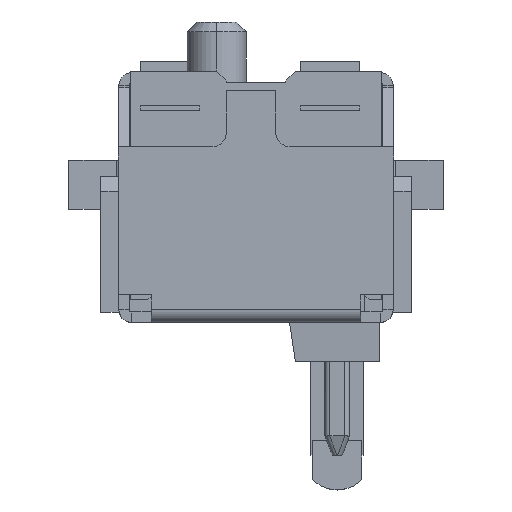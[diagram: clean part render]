
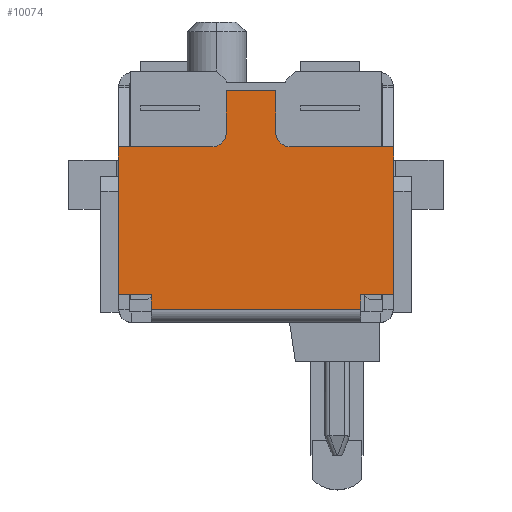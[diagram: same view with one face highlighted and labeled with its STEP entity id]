
A CAD part, top view. The second image highlights one B-rep face of the part: STEP entity #10074.
In plain terms, the highlighted planar face has unit normal (0, 0, 1).
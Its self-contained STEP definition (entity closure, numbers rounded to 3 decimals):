
#6194 = VERTEX_POINT ( 'NONE', #14582 ) ;
#9029 = LINE ( 'NONE', #9285, #9303 ) ;
#9118 = CARTESIAN_POINT ( 'NONE',  ( -2.125, -1.63, 4.3 ) ) ;
#9119 = DIRECTION ( 'NONE',  ( -1., 0., 0. ) ) ;
#9120 = VECTOR ( 'NONE', #9119, 1000. ) ;
#9121 = CARTESIAN_POINT ( 'NONE',  ( 0., -1.63, 4.3 ) ) ;
#9122 = LINE ( 'NONE', #9121, #9120 ) ;
#9123 = CARTESIAN_POINT ( 'NONE',  ( 2.125, -1.63, 4.3 ) ) ;
#9184 = CARTESIAN_POINT ( 'NONE',  ( 2.125, -1.33, 4.3 ) ) ;
#9185 = DIRECTION ( 'NONE',  ( 0., -1., 0. ) ) ;
#9186 = VECTOR ( 'NONE', #9185, 1000. ) ;
#9187 = CARTESIAN_POINT ( 'NONE',  ( 2.125, 0.59, 4.3 ) ) ;
#9188 = LINE ( 'NONE', #9187, #9186 ) ;
#9259 = CARTESIAN_POINT ( 'NONE',  ( 2.8, -1.33, 4.3 ) ) ;
#9276 = DIRECTION ( 'NONE',  ( -1., 0., 0. ) ) ;
#9285 = CARTESIAN_POINT ( 'NONE',  ( 2.463, -1.33, 4.3 ) ) ;
#9303 = VECTOR ( 'NONE', #9276, 1000. ) ;
#9683 = VERTEX_POINT ( 'NONE', #9123 ) ;
#9685 = EDGE_CURVE ( 'NONE', #9683, #9686, #9122, .T. ) ;
#9686 = VERTEX_POINT ( 'NONE', #9118 ) ;
#9753 = EDGE_CURVE ( 'NONE', #9754, #9683, #9188, .T. ) ;
#9754 = VERTEX_POINT ( 'NONE', #9184 ) ;
#9755 = ORIENTED_EDGE ( 'NONE', *, *, #9756, .F. ) ;
#9756 = EDGE_CURVE ( 'NONE', #9757, #9754, #9029, .T. ) ;
#9757 = VERTEX_POINT ( 'NONE', #9259 ) ;
#9841 = ORIENTED_EDGE ( 'NONE', *, *, #9842, .F. ) ;
#9842 = EDGE_CURVE ( 'NONE', #10070, #9757, #13597, .T. ) ;
#9906 = VERTEX_POINT ( 'NONE', #12945 ) ;
#9907 = ORIENTED_EDGE ( 'NONE', *, *, #9908, .F. ) ;
#9908 = EDGE_CURVE ( 'NONE', #9909, #9906, #12944, .T. ) ;
#9909 = VERTEX_POINT ( 'NONE', #12940 ) ;
#9910 = ORIENTED_EDGE ( 'NONE', *, *, #9911, .F. ) ;
#9911 = EDGE_CURVE ( 'NONE', #9914, #9909, #12939, .T. ) ;
#9914 = VERTEX_POINT ( 'NONE', #12931 ) ;
#9931 = ORIENTED_EDGE ( 'NONE', *, *, #9685, .F. ) ;
#9932 = ORIENTED_EDGE ( 'NONE', *, *, #9753, .F. ) ;
#9936 = ORIENTED_EDGE ( 'NONE', *, *, #9937, .F. ) ;
#9937 = EDGE_CURVE ( 'NONE', #9906, #10073, #12818, .T. ) ;
#9940 = EDGE_CURVE ( 'NONE', #9686, #10053, #12872, .T. ) ;
#9946 = VERTEX_POINT ( 'NONE', #12859 ) ;
#9956 = ORIENTED_EDGE ( 'NONE', *, *, #9940, .F. ) ;
#9982 = EDGE_LOOP ( 'NONE', ( #9931, #9932, #9755, #9841, #10071, #9936, #9907, #9910, #9997, #10002, #10004, #9989, #10067, #9956 ) ) ;
#9989 = ORIENTED_EDGE ( 'NONE', *, *, #10058, .F. ) ;
#9997 = ORIENTED_EDGE ( 'NONE', *, *, #10043, .F. ) ;
#9998 = VERTEX_POINT ( 'NONE', #13129 ) ;
#10002 = ORIENTED_EDGE ( 'NONE', *, *, #10003, .F. ) ;
#10003 = EDGE_CURVE ( 'NONE', #9946, #9998, #13123, .T. ) ;
#10004 = ORIENTED_EDGE ( 'NONE', *, *, #10005, .F. ) ;
#10005 = EDGE_CURVE ( 'NONE', #6194, #9946, #13118, .T. ) ;
#10043 = EDGE_CURVE ( 'NONE', #9998, #9914, #13136, .T. ) ;
#10053 = VERTEX_POINT ( 'NONE', #13066 ) ;
#10054 = VERTEX_POINT ( 'NONE', #13065 ) ;
#10057 = EDGE_CURVE ( 'NONE', #10053, #10054, #13289, .T. ) ;
#10058 = EDGE_CURVE ( 'NONE', #10054, #6194, #13417, .T. ) ;
#10067 = ORIENTED_EDGE ( 'NONE', *, *, #10057, .F. ) ;
#10070 = VERTEX_POINT ( 'NONE', #13273 ) ;
#10071 = ORIENTED_EDGE ( 'NONE', *, *, #10072, .F. ) ;
#10072 = EDGE_CURVE ( 'NONE', #10073, #10070, #13475, .T. ) ;
#10073 = VERTEX_POINT ( 'NONE', #13471 ) ;
#10074 = ADVANCED_FACE ( 'NONE', ( #13470 ), #13454, .F. ) ;
#12814 = DIRECTION ( 'NONE',  ( -1., 0., 0. ) ) ;
#12815 = DIRECTION ( 'NONE',  ( 0., 0., 1. ) ) ;
#12816 = CARTESIAN_POINT ( 'NONE',  ( 0.7, 1.97, 4.3 ) ) ;
#12817 = AXIS2_PLACEMENT_3D ( 'NONE', #12816, #12815, #12814 ) ;
#12818 = CIRCLE ( 'NONE', #12817, 0.3 ) ;
#12859 = CARTESIAN_POINT ( 'NONE',  ( -0.9, 1.67, 4.3 ) ) ;
#12869 = DIRECTION ( 'NONE',  ( 0., 1., 0. ) ) ;
#12870 = VECTOR ( 'NONE', #12869, 1000. ) ;
#12871 = CARTESIAN_POINT ( 'NONE',  ( -2.125, 0.59, 4.3 ) ) ;
#12872 = LINE ( 'NONE', #12871, #12870 ) ;
#12931 = CARTESIAN_POINT ( 'NONE',  ( -0.6, 2.81, 4.3 ) ) ;
#12936 = DIRECTION ( 'NONE',  ( 1., 0., 0. ) ) ;
#12937 = VECTOR ( 'NONE', #12936, 1000. ) ;
#12938 = CARTESIAN_POINT ( 'NONE',  ( -0.1, 2.81, 4.3 ) ) ;
#12939 = LINE ( 'NONE', #12938, #12937 ) ;
#12940 = CARTESIAN_POINT ( 'NONE',  ( 0.4, 2.81, 4.3 ) ) ;
#12941 = DIRECTION ( 'NONE',  ( 0., -1., 0. ) ) ;
#12942 = VECTOR ( 'NONE', #12941, 1000. ) ;
#12943 = CARTESIAN_POINT ( 'NONE',  ( 0.4, 2.39, 4.3 ) ) ;
#12944 = LINE ( 'NONE', #12943, #12942 ) ;
#12945 = CARTESIAN_POINT ( 'NONE',  ( 0.4, 1.97, 4.3 ) ) ;
#13065 = CARTESIAN_POINT ( 'NONE',  ( -2.8, -1.33, 4.3 ) ) ;
#13066 = CARTESIAN_POINT ( 'NONE',  ( -2.125, -1.33, 4.3 ) ) ;
#13115 = DIRECTION ( 'NONE',  ( 1., 0., 0. ) ) ;
#13116 = VECTOR ( 'NONE', #13115, 1000. ) ;
#13117 = CARTESIAN_POINT ( 'NONE',  ( -1.85, 1.67, 4.3 ) ) ;
#13118 = LINE ( 'NONE', #13117, #13116 ) ;
#13119 = DIRECTION ( 'NONE',  ( -1., 0., 0. ) ) ;
#13120 = DIRECTION ( 'NONE',  ( 0., 0., 1. ) ) ;
#13121 = CARTESIAN_POINT ( 'NONE',  ( -0.9, 1.97, 4.3 ) ) ;
#13122 = AXIS2_PLACEMENT_3D ( 'NONE', #13121, #13120, #13119 ) ;
#13123 = CIRCLE ( 'NONE', #13122, 0.3 ) ;
#13129 = CARTESIAN_POINT ( 'NONE',  ( -0.6, 1.97, 4.3 ) ) ;
#13133 = DIRECTION ( 'NONE',  ( 0., 1., 0. ) ) ;
#13134 = VECTOR ( 'NONE', #13133, 1000. ) ;
#13135 = CARTESIAN_POINT ( 'NONE',  ( -0.6, 2.39, 4.3 ) ) ;
#13136 = LINE ( 'NONE', #13135, #13134 ) ;
#13273 = CARTESIAN_POINT ( 'NONE',  ( 2.8, 1.67, 4.3 ) ) ;
#13289 = LINE ( 'NONE', #13416, #13415 ) ;
#13414 = DIRECTION ( 'NONE',  ( -1., 0., 0. ) ) ;
#13415 = VECTOR ( 'NONE', #13414, 1000. ) ;
#13416 = CARTESIAN_POINT ( 'NONE',  ( 0., -1.33, 4.3 ) ) ;
#13417 = LINE ( 'NONE', #13452, #13451 ) ;
#13447 = DIRECTION ( 'NONE',  ( 1., 0., 0. ) ) ;
#13448 = DIRECTION ( 'NONE',  ( 0., 0., -1. ) ) ;
#13449 = CARTESIAN_POINT ( 'NONE',  ( -2.8, 2.81, 4.3 ) ) ;
#13450 = DIRECTION ( 'NONE',  ( 0., 1., 0. ) ) ;
#13451 = VECTOR ( 'NONE', #13450, 1000. ) ;
#13452 = CARTESIAN_POINT ( 'NONE',  ( -2.8, 0.17, 4.3 ) ) ;
#13453 = AXIS2_PLACEMENT_3D ( 'NONE', #13449, #13448, #13447 ) ;
#13454 = PLANE ( 'NONE',  #13453 ) ;
#13470 = FACE_OUTER_BOUND ( 'NONE', #9982, .T. ) ;
#13471 = CARTESIAN_POINT ( 'NONE',  ( 0.7, 1.67, 4.3 ) ) ;
#13472 = DIRECTION ( 'NONE',  ( 1., 0., 0. ) ) ;
#13473 = VECTOR ( 'NONE', #13472, 1000. ) ;
#13474 = CARTESIAN_POINT ( 'NONE',  ( 1.75, 1.67, 4.3 ) ) ;
#13475 = LINE ( 'NONE', #13474, #13473 ) ;
#13594 = DIRECTION ( 'NONE',  ( 0., -1., 0. ) ) ;
#13595 = VECTOR ( 'NONE', #13594, 1000. ) ;
#13596 = CARTESIAN_POINT ( 'NONE',  ( 2.8, 0.17, 4.3 ) ) ;
#13597 = LINE ( 'NONE', #13596, #13595 ) ;
#14582 = CARTESIAN_POINT ( 'NONE',  ( -2.8, 1.67, 4.3 ) ) ;
